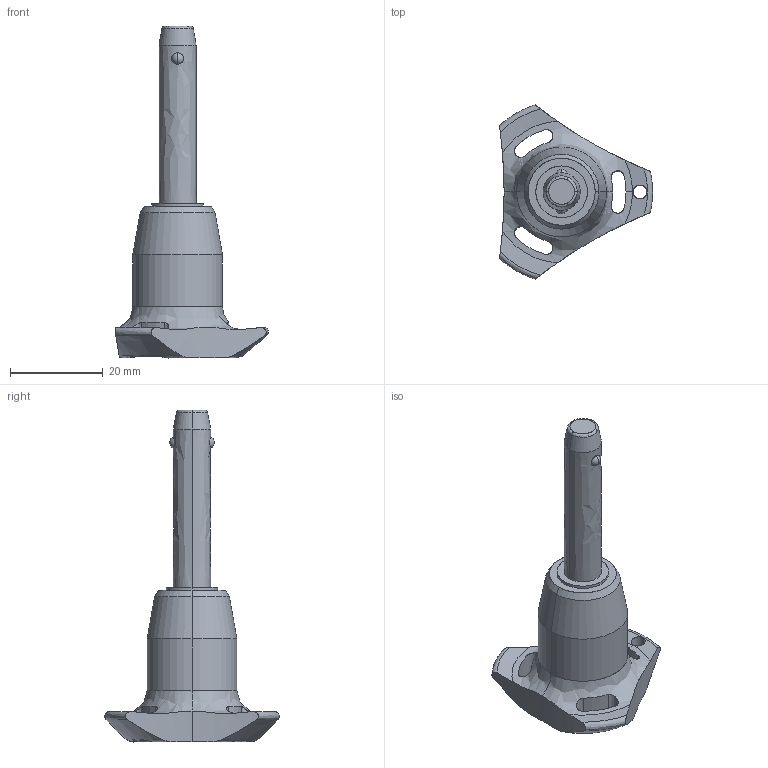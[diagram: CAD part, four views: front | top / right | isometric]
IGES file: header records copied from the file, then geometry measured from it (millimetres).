
Start section: SolidWorks IGES file using analytic representation for surfaces
Global section: file name: C:\Users\ianosborn\Desktop\QR1714_v2\QR1714_v2_20251112_IGES\QR1714.M08-030-S.igs; native system: SolidWorks 2019; preprocessor: SolidWorks 2019; author: IanOsborn; date: 251112.100248; units: millimetre
Bounding box: 33 x 37.51 x 71.5 mm (x, y, z)
Surface area: 4808.6 mm2 (no closed solid volume)
Topology: 0 solids, 0 shells, 65 faces, 1274 edges, 1270 vertices
Faces by surface type: revolution 50, bspline 15
